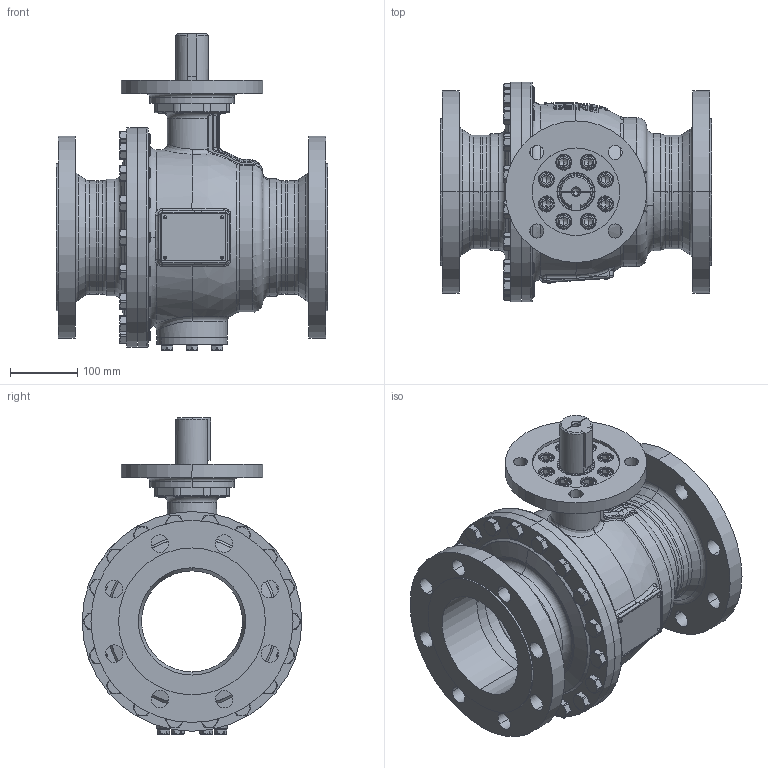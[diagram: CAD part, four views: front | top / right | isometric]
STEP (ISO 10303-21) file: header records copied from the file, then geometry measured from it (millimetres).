
FILE_DESCRIPTION((''),'2;1');
FILE_NAME('KHI-F_150_PN040-F16-P_SW0001','2026-02-05T11:41:21',('fischerkl'),('KLINGER'),'CREO PARAMETRIC BY PTC INC, 2023014','CREO PARAMETRIC BY PTC INC, 2023014','');
FILE_SCHEMA(('CONFIG_CONTROL_DESIGN'));
Products named in the file (1): KHI-F_150_PN040-F16-P_SW0001
Bounding box: 403 x 326 x 469.2 mm (x, y, z)
Volume: 8876148.3 mm3; surface area: 1626575.6 mm2
Topology: 1 solids, 4 shells, 3723 faces, 9532 edges, 5947 vertices
Faces by surface type: plane 2284, cylinder 676, cone 362, torus 260, bspline 113, sphere 28
Entity records: 144408 total; most frequent: CARTESIAN_POINT 56405, ORIENTED_EDGE 19012, DIRECTION 17381, EDGE_CURVE 9506, AXIS2_PLACEMENT_3D 6125, VERTEX_POINT 5947, VECTOR 5131, LINE 5131
